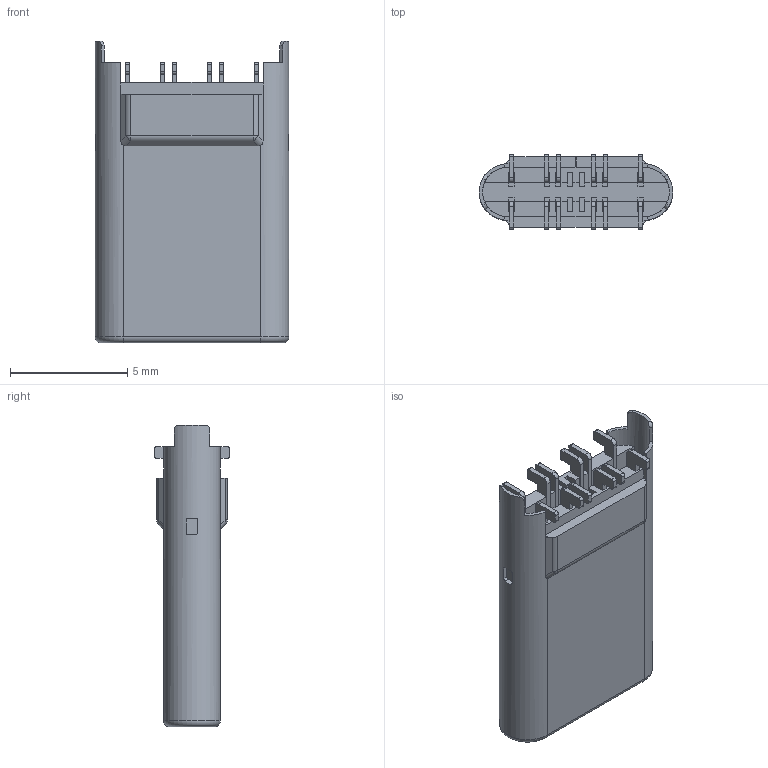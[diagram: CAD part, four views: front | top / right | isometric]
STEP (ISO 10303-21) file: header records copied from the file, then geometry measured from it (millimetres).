
FILE_DESCRIPTION((''),'2;1');
FILE_NAME('PRT0004','2025-08-20T',('Administrator'),(''),'PRO/ENGINEER BY PARAMETRIC TECHNOLOGY CORPORATION, 2013040','PRO/ENGINEER BY PARAMETRIC TECHNOLOGY CORPORATION, 2013040','');
FILE_SCHEMA(('CONFIG_CONTROL_DESIGN'));
Length unit declared in the file: millimetre
Products named in the file (1): PRT0004
Bounding box: 8.25 x 3.2 x 12.85 mm (x, y, z)
Volume: 165.1 mm3; surface area: 802.3 mm2
Topology: 1 solids, 3 shells, 1166 faces, 3547 edges, 2355 vertices
Faces by surface type: plane 901, cylinder 245, cone 12, torus 4, sphere 4
Entity records: 39996 total; most frequent: CARTESIAN_POINT 7926, ORIENTED_EDGE 7094, DIRECTION 6209, EDGE_CURVE 3547, VECTOR 2871, LINE 2871, VERTEX_POINT 2355, AXIS2_PLACEMENT_3D 1669
